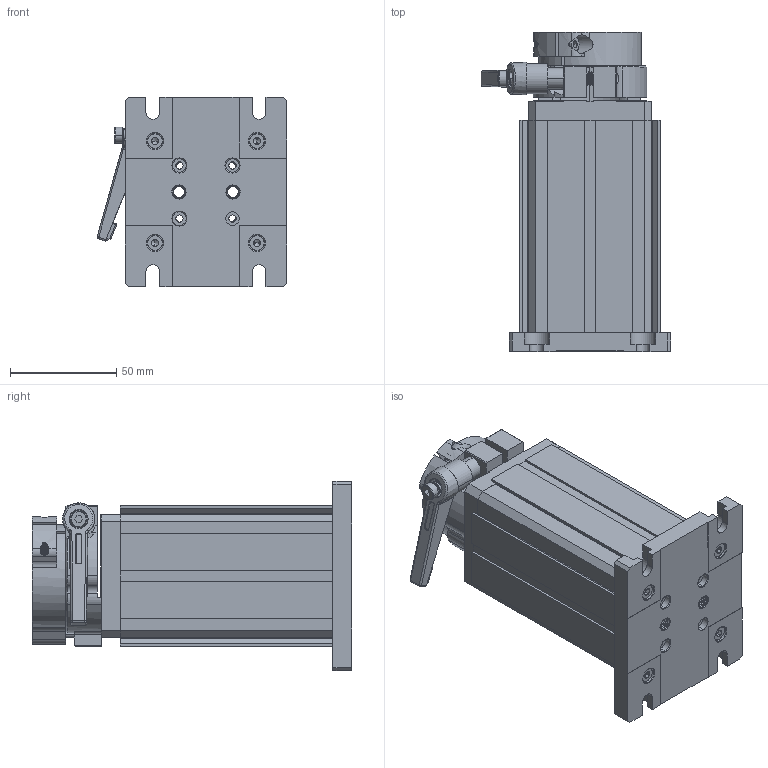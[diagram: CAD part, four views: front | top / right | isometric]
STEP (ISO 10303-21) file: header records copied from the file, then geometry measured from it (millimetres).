
FILE_DESCRIPTION((''),'2;1');
FILE_NAME('CAX-R100_ASM','2021-06-24T',('Administrator'),(''),'CREO PARAMETRIC BY PTC INC, 2015290','CREO PARAMETRIC BY PTC INC, 2015290','');
FILE_SCHEMA(('CONFIG_CONTROL_DESIGN'));
Products named in the file (13): OPS-ML; OPH_A100; CFEP-A1_5; M4X10_HM; PCA-K2; D3X18_AXLE; M4X12_HM; M6-16_A1; M6-16_A2; M4X14_HMZ; SPRING_6X8; M6-16_ASM; CAX-R100_ASM
Assembly tree (19 placements, depth 3):
  CAX-R100_ASM
    OPS-ML
    OPH_A100
    CFEP-A1_5
    M4X10_HM  x8
    PCA-K2
    D3X18_AXLE
    M4X12_HM
    M6-16_ASM
      M6-16_A1
      M6-16_A2
      M4X14_HMZ
      SPRING_6X8
Bounding box: 89.36 x 150.42 x 89.28 mm (x, y, z)
Volume: 267808 mm3; surface area: 100758 mm2
Topology: 18 solids, 18 shells, 1354 faces, 3386 edges, 2080 vertices
Faces by surface type: cylinder 545, plane 402, cone 215, bspline 182, torus 6, sphere 4
Entity records: 64898 total; most frequent: CARTESIAN_POINT 38593, ORIENTED_EDGE 5972, DIRECTION 4538, EDGE_CURVE 2986, VERTEX_POINT 1905, AXIS2_PLACEMENT_3D 1578, VECTOR 1382, LINE 1382
